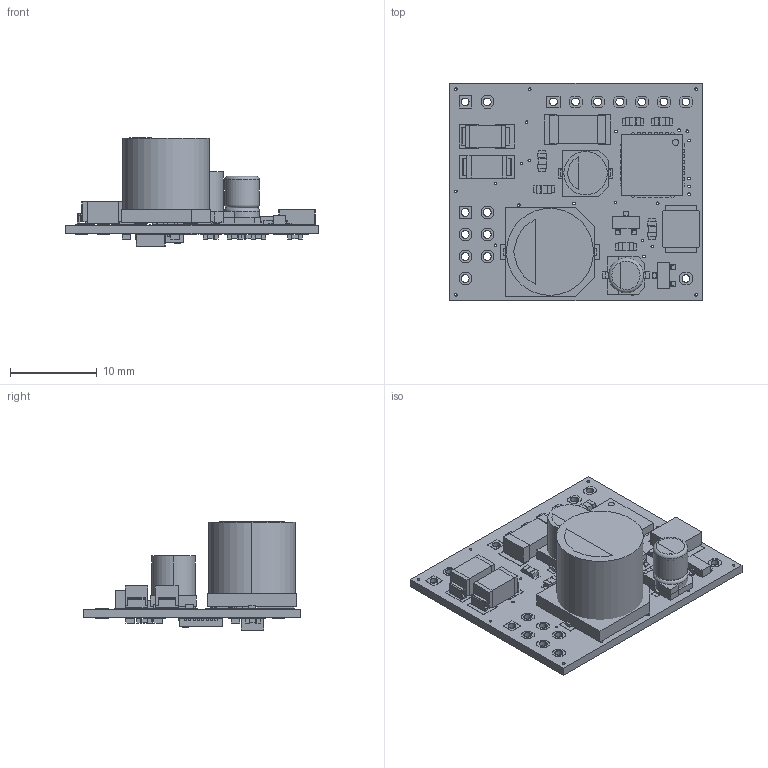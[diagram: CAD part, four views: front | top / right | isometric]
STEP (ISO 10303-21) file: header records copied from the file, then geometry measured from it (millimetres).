
FILE_DESCRIPTION (( 'STEP AP214' ), '1' );
FILE_NAME ('0832_KnxBAOS_SAMD20E_2020_02_14_001', '', ( '' ), ( '' ), 'STEP 3.0', 'TARGET 3001!', '' );
FILE_SCHEMA (( 'AUTOMOTIVE_DESIGN' ));
Length unit declared in the file: millimetre
Products named in the file (70): Board; Copper_GND; Copper_BUS+; Copper_VCC; Copper_Sig$4; Copper_V20; Copper_Sig$6; Copper_ElmosCLK; Copper_Sig$8; Copper_Sig$9; Copper_RESET; Copper_SWDCLK; Copper_SWDIO; Copper_Sig$13; Copper_Sig$14; Copper_DebugTx; Copper_ProgKey; Copper_ProgLED; Copper_ElmosTx; Copper_ElmosRx; Copper_Sig$20; Copper_Sig$21; Copper_Sig$22; Copper_Sig$23; Copper_Sig$24; Copper_Sig$25; Copper_ModulRx; Copper_ModulTx; Copper_Sig$28; Copper_Sig$29; Copper_TP1; Copper_TP2; Copper_TP3; Copper_TP4; Copper_TP5; Copper_Sig$35; Copper_Sig$36; Copper_; C14; C3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
Bounding box: 29 x 25 x 12.43 mm (x, y, z)
Volume: 2114.4 mm3; surface area: 4121.6 mm2
Topology: 365 solids, 365 shells, 2517 faces, 5376 edges, 3583 vertices
Faces by surface type: plane 2266, cylinder 248, torus 3
Entity records: 55726 total; most frequent: ORIENTED_EDGE 10740, DIRECTION 7321, EDGE_CURVE 5370, LINE 4874, VECTOR 4750, CARTESIAN_POINT 3832, VERTEX_POINT 3580, EDGE_LOOP 2690
